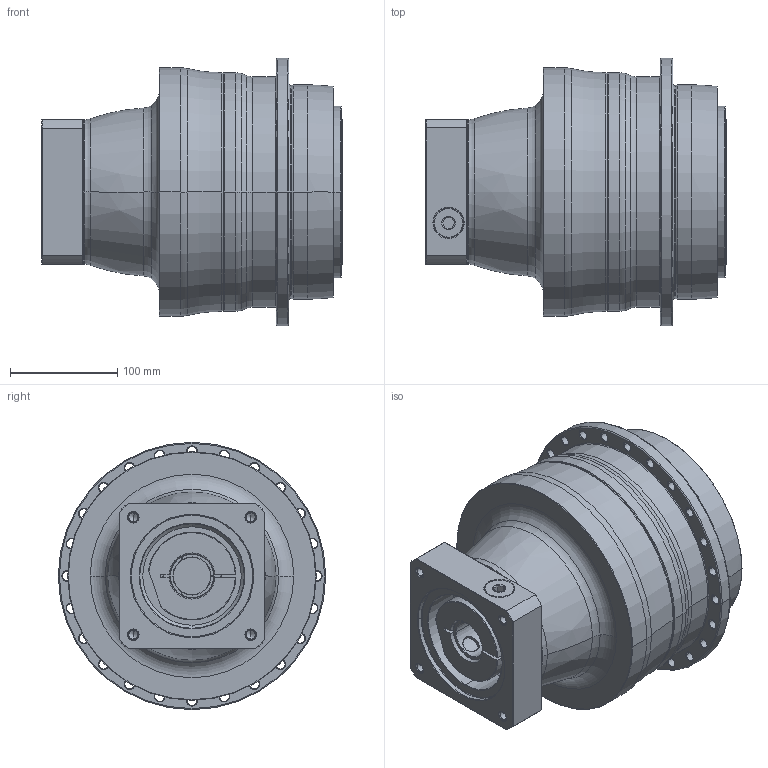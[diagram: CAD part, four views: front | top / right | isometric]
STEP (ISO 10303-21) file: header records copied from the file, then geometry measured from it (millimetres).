
FILE_DESCRIPTION((''),'2;1');
FILE_NAME('AP200_3ST_35-P0409800201_ASM','2018-06-06T',('d01226'),(''),'PRO/ENGINEER BY PARAMETRIC TECHNOLOGY CORPORATION, 2008410','PRO/ENGINEER BY PARAMETRIC TECHNOLOGY CORPORATION, 2008410','');
FILE_SCHEMA(('CONFIG_CONTROL_DESIGN'));
Length unit declared in the file: millimetre
Products named in the file (9): P0278601003; P0359601103; P1366600401; P0503800012; P0912404001; P1211600001; P0409800201; 21711422019; AP200_3ST_35-P0409800201_ASM
Assembly tree (8 placements, depth 2):
  AP200_3ST_35-P0409800201_ASM
    P0278601003
    P0359601103
    P1366600401
    P0503800012
    P0912404001
    P1211600001
    P0409800201
    21711422019
Bounding box: 281 x 249.5 x 249.5 mm (x, y, z)
Volume: 7906846.2 mm3; surface area: 548885.2 mm2
Topology: 9 solids, 34 shells, 650 faces, 1551 edges, 956 vertices
Faces by surface type: cylinder 268, cone 180, plane 108, torus 78, bspline 16
Entity records: 24028 total; most frequent: CARTESIAN_POINT 8161, DIRECTION 3653, ORIENTED_EDGE 2984, AXIS2_PLACEMENT_3D 1570, EDGE_CURVE 1543, VERTEX_POINT 956, CIRCLE 909, EDGE_LOOP 789
